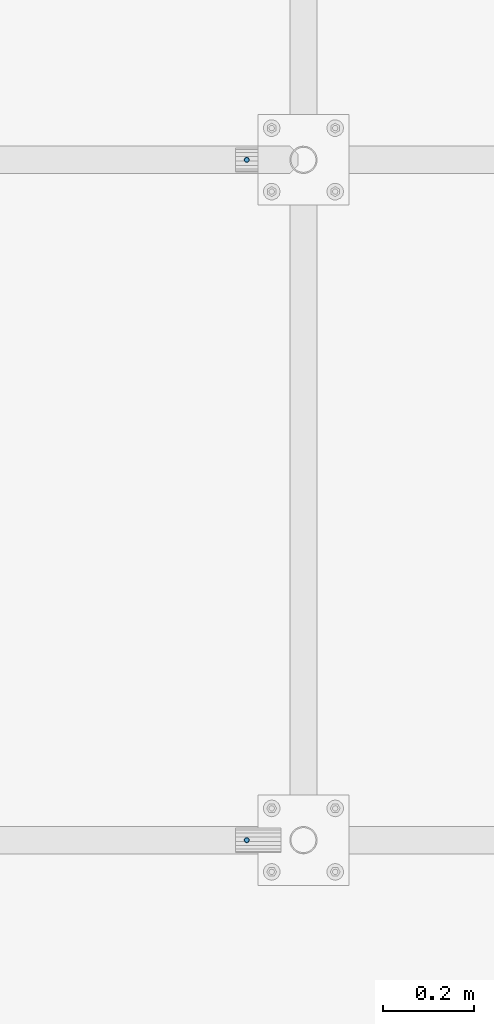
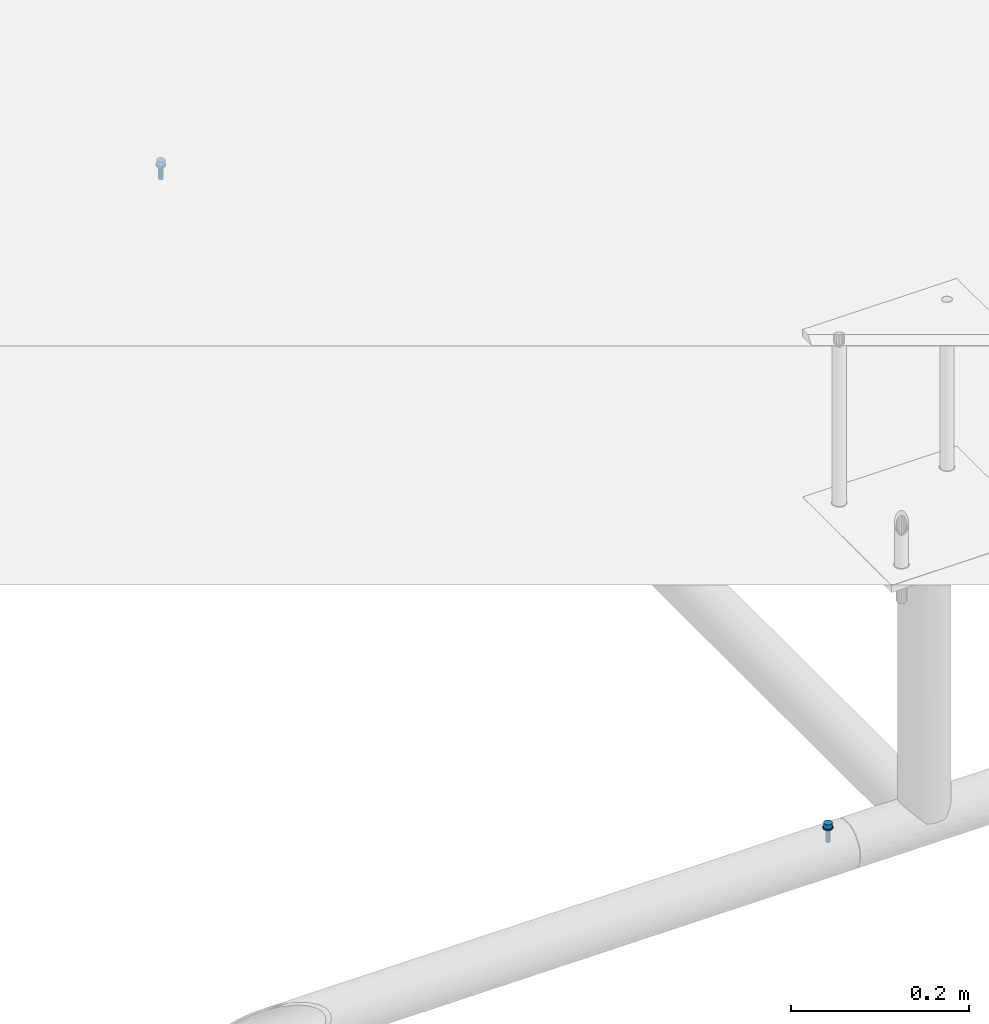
# One storey, part 8 of 30: 2 mechanical fasteners.
"""IFC2X3 building model written with IfcOpenShell, lengths in millimetres."""

from ifc_helpers import new_model, entity, si_unit, converted_unit, origin_with_axes, place, context, project, spatial, faceted_brep, element, save


model = new_model("IFC2X3")

# Units and contexts
model_context = context("Model", 3, precision=1e-09, world=origin_with_axes())
ifc_project = project(units=[si_unit("LENGTHUNIT", "METRE", prefix="MILLI"), si_unit("AREAUNIT", "SQUARE_METRE"), si_unit("VOLUMEUNIT", "CUBIC_METRE"), converted_unit("PLANEANGLEUNIT", "DEGREE", entity("IfcPlaneAngleMeasure", 0.01745329), si_unit("PLANEANGLEUNIT", "RADIAN"), dimensions=[0, 0, 0, 0, 0, 0, 0])], contexts=[model_context])

# Site, building, storey
site_placement = place(None, origin_with_axes())
site = spatial("IfcSite", under=ifc_project, at=site_placement, Name="M?nsinger Stra?e, 81477 M?nchen", CompositionType="ELEMENT")
building_placement = place(site_placement, origin_with_axes())
building = spatial("IfcBuilding", under=site, at=building_placement, Name="Struktur 1", CompositionType="ELEMENT")
storey_placement = place(building_placement, origin_with_axes())
storey = spatial("IfcBuildingStorey", under=building, at=storey_placement, Name="Default Storey", CompositionType="ELEMENT", Elevation=0.0)

# Mechanical fasteners
mechanical_fastener_1_placement = place(None, origin_with_axes())
element("IfcMechanicalFastener", 1, at=mechanical_fastener_1_placement, inside=storey, ObjectType="-", NominalDiameter=6.0, NominalLength=20.0, context=model_context, shape_type="Brep", body=[
    faceted_brep([(4287.315117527, 1491.2632594, 6140.15), (4287.315117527, 1491.2632594, 6141.75), (4287.19982921, 1490.092717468, 6141.75), (4287.19982921, 1490.092717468, 6140.15), (4286.858394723, 1488.967158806, 6141.75), (4286.858394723, 1488.967158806, 6140.15), (4286.303935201, 1487.929838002, 6141.75), (4286.303935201, 1487.929838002, 6140.15), (4285.557758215, 1487.020618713, 6141.75), (4285.557758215, 1487.020618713, 6140.15), (4284.648538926, 1486.274441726, 6141.75), (4284.648538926, 1486.274441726, 6140.15), (4283.611218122, 1485.719982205, 6141.75), (4283.611218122, 1485.719982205, 6140.15), (4282.48565946, 1485.378547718, 6141.75), (4282.48565946, 1485.378547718, 6140.15), (4281.315117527, 1485.2632594, 6141.75), (4281.315117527, 1485.2632594, 6140.15), (4280.144575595, 1485.378547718, 6141.75), (4280.144575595, 1485.378547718, 6140.15), (4279.019016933, 1485.719982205, 6141.75), (4279.019016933, 1485.719982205, 6140.15), (4277.981696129, 1486.274441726, 6141.75), (4277.981696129, 1486.274441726, 6140.15), (4277.07247684, 1487.020618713, 6141.75), (4277.07247684, 1487.020618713, 6140.15), (4276.326299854, 1487.929838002, 6141.75), (4276.326299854, 1487.929838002, 6140.15), (4275.771840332, 1488.967158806, 6141.75), (4275.771840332, 1488.967158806, 6140.15), (4275.430405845, 1490.092717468, 6141.75), (4275.430405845, 1490.092717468, 6140.15), (4275.315117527, 1491.2632594, 6141.75), (4275.315117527, 1491.2632594, 6140.15), (4275.430405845, 1492.433801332, 6141.75), (4275.430405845, 1492.433801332, 6140.15), (4275.771840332, 1493.559359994, 6141.75), (4275.771840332, 1493.559359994, 6140.15), (4276.326299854, 1494.596680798, 6141.75), (4276.326299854, 1494.596680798, 6140.15), (4277.07247684, 1495.505900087, 6141.75), (4277.07247684, 1495.505900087, 6140.15), (4277.981696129, 1496.252077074, 6141.75), (4277.981696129, 1496.252077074, 6140.15), (4279.019016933, 1496.806536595, 6141.75), (4279.019016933, 1496.806536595, 6140.15), (4280.144575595, 1497.147971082, 6141.75), (4280.144575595, 1497.147971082, 6140.15), (4281.315117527, 1497.2632594, 6141.75), (4281.315117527, 1497.2632594, 6140.15), (4282.48565946, 1497.147971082, 6141.75), (4282.48565946, 1497.147971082, 6140.15), (4283.611218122, 1496.806536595, 6141.75), (4283.611218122, 1496.806536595, 6140.15), (4284.648538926, 1496.252077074, 6141.75), (4284.648538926, 1496.252077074, 6140.15), (4285.557758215, 1495.505900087, 6141.75), (4285.557758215, 1495.505900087, 6140.15), (4286.303935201, 1494.596680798, 6141.75), (4286.303935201, 1494.596680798, 6140.15), (4286.858394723, 1493.559359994, 6141.75), (4286.858394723, 1493.559359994, 6140.15), (4287.19982921, 1492.433801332, 6141.75), (4287.19982921, 1492.433801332, 6140.15)], [[[0, 1, 2, 3]], [[3, 2, 4, 5]], [[5, 4, 6, 7]], [[7, 6, 8, 9]], [[9, 8, 10, 11]], [[11, 10, 12, 13]], [[13, 12, 14, 15]], [[15, 14, 16, 17]], [[17, 16, 18, 19]], [[19, 18, 20, 21]], [[21, 20, 22, 23]], [[23, 22, 24, 25]], [[25, 24, 26, 27]], [[27, 26, 28, 29]], [[29, 28, 30, 31]], [[31, 30, 32, 33]], [[33, 32, 34, 35]], [[35, 34, 36, 37]], [[37, 36, 38, 39]], [[39, 38, 40, 41]], [[41, 40, 42, 43]], [[43, 42, 44, 45]], [[45, 44, 46, 47]], [[47, 46, 48, 49]], [[49, 48, 50, 51]], [[51, 50, 52, 53]], [[53, 52, 54, 55]], [[55, 54, 56, 57]], [[57, 56, 58, 59]], [[59, 58, 60, 61]], [[61, 60, 62, 63]], [[63, 62, 1, 0]], [[2, 1, 62, 60, 58, 56, 54, 52, 50, 48, 46, 44, 42, 40, 38, 36, 34, 32, 30, 28, 26, 24, 22, 20, 18, 16, 14, 12, 10, 8, 6, 4]], [[63, 0, 3, 5, 7, 9, 11, 13, 15, 17, 19, 21, 23, 25, 27, 29, 31, 33, 35, 37, 39, 41, 43, 45, 47, 49, 51, 53, 55, 57, 59, 61]]]),
    faceted_brep([(4286.315117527, 1491.2632594, 6141.75), (4286.315117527, 1491.2632594, 6147.75), (4286.219043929, 1490.28780779, 6147.75), (4286.219043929, 1490.28780779, 6141.75), (4285.93451519, 1489.349842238, 6147.75), (4285.93451519, 1489.349842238, 6141.75), (4285.472465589, 1488.485408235, 6147.75), (4285.472465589, 1488.485408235, 6141.75), (4284.850651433, 1487.727725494, 6147.75), (4284.850651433, 1487.727725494, 6141.75), (4284.092968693, 1487.105911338, 6147.75), (4284.092968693, 1487.105911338, 6141.75), (4283.228534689, 1486.643861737, 6147.75), (4283.228534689, 1486.643861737, 6141.75), (4282.290569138, 1486.359332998, 6147.75), (4282.290569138, 1486.359332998, 6141.75), (4281.315117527, 1486.2632594, 6147.75), (4281.315117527, 1486.2632594, 6141.75), (4280.339665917, 1486.359332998, 6147.75), (4280.339665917, 1486.359332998, 6141.75), (4279.401700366, 1486.643861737, 6147.75), (4279.401700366, 1486.643861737, 6141.75), (4278.537266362, 1487.105911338, 6147.75), (4278.537266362, 1487.105911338, 6141.75), (4277.779583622, 1487.727725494, 6147.75), (4277.779583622, 1487.727725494, 6141.75), (4277.157769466, 1488.485408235, 6147.75), (4277.157769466, 1488.485408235, 6141.75), (4276.695719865, 1489.349842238, 6147.75), (4276.695719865, 1489.349842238, 6141.75), (4276.411191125, 1490.28780779, 6147.75), (4276.411191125, 1490.28780779, 6141.75), (4276.315117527, 1491.2632594, 6147.75), (4276.315117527, 1491.2632594, 6141.75), (4276.411191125, 1492.23871101, 6147.75), (4276.411191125, 1492.23871101, 6141.75), (4276.695719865, 1493.176676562, 6147.75), (4276.695719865, 1493.176676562, 6141.75), (4277.157769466, 1494.041110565, 6147.75), (4277.157769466, 1494.041110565, 6141.75), (4277.779583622, 1494.798793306, 6147.75), (4277.779583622, 1494.798793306, 6141.75), (4278.537266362, 1495.420607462, 6147.75), (4278.537266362, 1495.420607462, 6141.75), (4279.401700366, 1495.882657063, 6147.75), (4279.401700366, 1495.882657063, 6141.75), (4280.339665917, 1496.167185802, 6147.75), (4280.339665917, 1496.167185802, 6141.75), (4281.315117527, 1496.2632594, 6147.75), (4281.315117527, 1496.2632594, 6141.75), (4282.290569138, 1496.167185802, 6147.75), (4282.290569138, 1496.167185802, 6141.75), (4283.228534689, 1495.882657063, 6147.75), (4283.228534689, 1495.882657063, 6141.75), (4284.092968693, 1495.420607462, 6147.75), (4284.092968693, 1495.420607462, 6141.75), (4284.850651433, 1494.798793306, 6147.75), (4284.850651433, 1494.798793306, 6141.75), (4285.472465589, 1494.041110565, 6147.75), (4285.472465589, 1494.041110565, 6141.75), (4285.93451519, 1493.176676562, 6147.75), (4285.93451519, 1493.176676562, 6141.75), (4286.219043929, 1492.23871101, 6147.75), (4286.219043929, 1492.23871101, 6141.75)], [[[0, 1, 2, 3]], [[3, 2, 4, 5]], [[5, 4, 6, 7]], [[7, 6, 8, 9]], [[9, 8, 10, 11]], [[11, 10, 12, 13]], [[13, 12, 14, 15]], [[15, 14, 16, 17]], [[17, 16, 18, 19]], [[19, 18, 20, 21]], [[21, 20, 22, 23]], [[23, 22, 24, 25]], [[25, 24, 26, 27]], [[27, 26, 28, 29]], [[29, 28, 30, 31]], [[31, 30, 32, 33]], [[33, 32, 34, 35]], [[35, 34, 36, 37]], [[37, 36, 38, 39]], [[39, 38, 40, 41]], [[41, 40, 42, 43]], [[43, 42, 44, 45]], [[45, 44, 46, 47]], [[47, 46, 48, 49]], [[49, 48, 50, 51]], [[51, 50, 52, 53]], [[53, 52, 54, 55]], [[55, 54, 56, 57]], [[57, 56, 58, 59]], [[59, 58, 60, 61]], [[61, 60, 62, 63]], [[63, 62, 1, 0]], [[2, 1, 62, 60, 58, 56, 54, 52, 50, 48, 46, 44, 42, 40, 38, 36, 34, 32, 30, 28, 26, 24, 22, 20, 18, 16, 14, 12, 10, 8, 6, 4]], [[63, 0, 3, 5, 7, 9, 11, 13, 15, 17, 19, 21, 23, 25, 27, 29, 31, 33, 35, 37, 39, 41, 43, 45, 47, 49, 51, 53, 55, 57, 59, 61]]]),
    faceted_brep([(4284.315117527, 1491.2632594, 6130.585197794), (4284.315117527, 1491.2632594, 6140.15), (4284.086756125, 1490.115209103, 6140.15), (4284.086756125, 1490.115209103, 6130.585197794), (4283.436437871, 1489.141939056, 6140.15), (4283.436437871, 1489.141939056, 6130.585197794), (4282.463167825, 1488.491620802, 6140.15), (4282.463167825, 1488.491620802, 6130.585197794), (4281.315117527, 1488.2632594, 6140.15), (4281.315117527, 1488.2632594, 6130.585197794), (4280.16706723, 1488.491620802, 6140.15), (4280.16706723, 1488.491620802, 6130.585197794), (4279.193797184, 1489.141939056, 6140.15), (4279.193797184, 1489.141939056, 6130.585197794), (4278.54347893, 1490.115209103, 6140.15), (4278.54347893, 1490.115209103, 6130.585197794), (4278.315117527, 1491.2632594, 6140.15), (4278.315117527, 1491.2632594, 6130.585197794), (4278.54347893, 1492.411309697, 6140.15), (4278.54347893, 1492.411309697, 6130.585197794), (4279.193797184, 1493.384579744, 6140.15), (4279.193797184, 1493.384579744, 6130.585197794), (4280.16706723, 1494.034897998, 6140.15), (4280.16706723, 1494.034897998, 6130.585197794), (4281.315117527, 1494.2632594, 6140.15), (4281.315117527, 1494.2632594, 6130.585197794), (4282.463167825, 1494.034897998, 6140.15), (4282.463167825, 1494.034897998, 6130.585197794), (4283.436437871, 1493.384579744, 6140.15), (4283.436437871, 1493.384579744, 6130.585197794), (4284.086756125, 1492.411309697, 6140.15), (4284.086756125, 1492.411309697, 6130.585197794)], [[[0, 1, 2, 3]], [[3, 2, 4, 5]], [[5, 4, 6, 7]], [[7, 6, 8, 9]], [[9, 8, 10, 11]], [[11, 10, 12, 13]], [[13, 12, 14, 15]], [[15, 14, 16, 17]], [[17, 16, 18, 19]], [[19, 18, 20, 21]], [[21, 20, 22, 23]], [[23, 22, 24, 25]], [[25, 24, 26, 27]], [[27, 26, 28, 29]], [[29, 28, 30, 31]], [[31, 30, 1, 0]], [[2, 1, 30, 28, 26, 24, 22, 20, 18, 16, 14, 12, 10, 8, 6, 4]], [[31, 0, 3, 5, 7, 9, 11, 13, 15, 17, 19, 21, 23, 25, 27, 29]]]),
    faceted_brep([(4284.315117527, 1491.2632594, 6121.75), (4284.315117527, 1491.2632594, 6130.585197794), (4284.086756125, 1490.115209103, 6130.585197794), (4284.086756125, 1490.115209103, 6121.75), (4283.436437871, 1489.141939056, 6130.585197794), (4283.436437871, 1489.141939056, 6121.75), (4282.463167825, 1488.491620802, 6130.585197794), (4282.463167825, 1488.491620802, 6121.75), (4281.315117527, 1488.2632594, 6130.585197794), (4281.315117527, 1488.2632594, 6121.75), (4280.16706723, 1488.491620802, 6130.585197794), (4280.16706723, 1488.491620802, 6121.75), (4279.193797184, 1489.141939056, 6130.585197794), (4279.193797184, 1489.141939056, 6121.75), (4278.54347893, 1490.115209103, 6130.585197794), (4278.54347893, 1490.115209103, 6121.75), (4278.315117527, 1491.2632594, 6130.585197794), (4278.315117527, 1491.2632594, 6121.75), (4278.54347893, 1492.411309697, 6130.585197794), (4278.54347893, 1492.411309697, 6121.75), (4279.193797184, 1493.384579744, 6130.585197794), (4279.193797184, 1493.384579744, 6121.75), (4280.16706723, 1494.034897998, 6130.585197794), (4280.16706723, 1494.034897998, 6121.75), (4281.315117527, 1494.2632594, 6130.585197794), (4281.315117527, 1494.2632594, 6121.75), (4282.463167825, 1494.034897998, 6130.585197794), (4282.463167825, 1494.034897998, 6121.75), (4283.436437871, 1493.384579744, 6130.585197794), (4283.436437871, 1493.384579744, 6121.75), (4284.086756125, 1492.411309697, 6130.585197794), (4284.086756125, 1492.411309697, 6121.75)], [[[0, 1, 2, 3]], [[3, 2, 4, 5]], [[5, 4, 6, 7]], [[7, 6, 8, 9]], [[9, 8, 10, 11]], [[11, 10, 12, 13]], [[13, 12, 14, 15]], [[15, 14, 16, 17]], [[17, 16, 18, 19]], [[19, 18, 20, 21]], [[21, 20, 22, 23]], [[23, 22, 24, 25]], [[25, 24, 26, 27]], [[27, 26, 28, 29]], [[29, 28, 30, 31]], [[31, 30, 1, 0]], [[2, 1, 30, 28, 26, 24, 22, 20, 18, 16, 14, 12, 10, 8, 6, 4]], [[31, 0, 3, 5, 7, 9, 11, 13, 15, 17, 19, 21, 23, 25, 27, 29]]]),
])
mechanical_fastener_2_placement = place(None, origin_with_axes())
element("IfcMechanicalFastener", 2, at=mechanical_fastener_2_placement, inside=storey, ObjectType="-", NominalDiameter=6.0, NominalLength=20.0, context=model_context, shape_type="Brep", body=[
    faceted_brep([(4287.315117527, 2991.2632594, 6140.15), (4287.315117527, 2991.2632594, 6141.75), (4287.19982921, 2990.092717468, 6141.75), (4287.19982921, 2990.092717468, 6140.15), (4286.858394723, 2988.967158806, 6141.75), (4286.858394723, 2988.967158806, 6140.15), (4286.303935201, 2987.929838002, 6141.75), (4286.303935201, 2987.929838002, 6140.15), (4285.557758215, 2987.020618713, 6141.75), (4285.557758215, 2987.020618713, 6140.15), (4284.648538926, 2986.274441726, 6141.75), (4284.648538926, 2986.274441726, 6140.15), (4283.611218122, 2985.719982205, 6141.75), (4283.611218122, 2985.719982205, 6140.15), (4282.48565946, 2985.378547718, 6141.75), (4282.48565946, 2985.378547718, 6140.15), (4281.315117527, 2985.2632594, 6141.75), (4281.315117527, 2985.2632594, 6140.15), (4280.144575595, 2985.378547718, 6141.75), (4280.144575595, 2985.378547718, 6140.15), (4279.019016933, 2985.719982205, 6141.75), (4279.019016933, 2985.719982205, 6140.15), (4277.981696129, 2986.274441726, 6141.75), (4277.981696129, 2986.274441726, 6140.15), (4277.07247684, 2987.020618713, 6141.75), (4277.07247684, 2987.020618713, 6140.15), (4276.326299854, 2987.929838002, 6141.75), (4276.326299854, 2987.929838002, 6140.15), (4275.771840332, 2988.967158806, 6141.75), (4275.771840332, 2988.967158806, 6140.15), (4275.430405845, 2990.092717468, 6141.75), (4275.430405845, 2990.092717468, 6140.15), (4275.315117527, 2991.2632594, 6141.75), (4275.315117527, 2991.2632594, 6140.15), (4275.430405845, 2992.433801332, 6141.75), (4275.430405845, 2992.433801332, 6140.15), (4275.771840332, 2993.559359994, 6141.75), (4275.771840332, 2993.559359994, 6140.15), (4276.326299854, 2994.596680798, 6141.75), (4276.326299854, 2994.596680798, 6140.15), (4277.07247684, 2995.505900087, 6141.75), (4277.07247684, 2995.505900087, 6140.15), (4277.981696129, 2996.252077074, 6141.75), (4277.981696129, 2996.252077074, 6140.15), (4279.019016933, 2996.806536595, 6141.75), (4279.019016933, 2996.806536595, 6140.15), (4280.144575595, 2997.147971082, 6141.75), (4280.144575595, 2997.147971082, 6140.15), (4281.315117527, 2997.2632594, 6141.75), (4281.315117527, 2997.2632594, 6140.15), (4282.48565946, 2997.147971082, 6141.75), (4282.48565946, 2997.147971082, 6140.15), (4283.611218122, 2996.806536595, 6141.75), (4283.611218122, 2996.806536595, 6140.15), (4284.648538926, 2996.252077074, 6141.75), (4284.648538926, 2996.252077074, 6140.15), (4285.557758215, 2995.505900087, 6141.75), (4285.557758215, 2995.505900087, 6140.15), (4286.303935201, 2994.596680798, 6141.75), (4286.303935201, 2994.596680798, 6140.15), (4286.858394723, 2993.559359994, 6141.75), (4286.858394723, 2993.559359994, 6140.15), (4287.19982921, 2992.433801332, 6141.75), (4287.19982921, 2992.433801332, 6140.15)], [[[0, 1, 2, 3]], [[3, 2, 4, 5]], [[5, 4, 6, 7]], [[7, 6, 8, 9]], [[9, 8, 10, 11]], [[11, 10, 12, 13]], [[13, 12, 14, 15]], [[15, 14, 16, 17]], [[17, 16, 18, 19]], [[19, 18, 20, 21]], [[21, 20, 22, 23]], [[23, 22, 24, 25]], [[25, 24, 26, 27]], [[27, 26, 28, 29]], [[29, 28, 30, 31]], [[31, 30, 32, 33]], [[33, 32, 34, 35]], [[35, 34, 36, 37]], [[37, 36, 38, 39]], [[39, 38, 40, 41]], [[41, 40, 42, 43]], [[43, 42, 44, 45]], [[45, 44, 46, 47]], [[47, 46, 48, 49]], [[49, 48, 50, 51]], [[51, 50, 52, 53]], [[53, 52, 54, 55]], [[55, 54, 56, 57]], [[57, 56, 58, 59]], [[59, 58, 60, 61]], [[61, 60, 62, 63]], [[63, 62, 1, 0]], [[2, 1, 62, 60, 58, 56, 54, 52, 50, 48, 46, 44, 42, 40, 38, 36, 34, 32, 30, 28, 26, 24, 22, 20, 18, 16, 14, 12, 10, 8, 6, 4]], [[63, 0, 3, 5, 7, 9, 11, 13, 15, 17, 19, 21, 23, 25, 27, 29, 31, 33, 35, 37, 39, 41, 43, 45, 47, 49, 51, 53, 55, 57, 59, 61]]]),
    faceted_brep([(4286.315117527, 2991.2632594, 6141.75), (4286.315117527, 2991.2632594, 6147.75), (4286.219043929, 2990.28780779, 6147.75), (4286.219043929, 2990.28780779, 6141.75), (4285.93451519, 2989.349842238, 6147.75), (4285.93451519, 2989.349842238, 6141.75), (4285.472465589, 2988.485408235, 6147.75), (4285.472465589, 2988.485408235, 6141.75), (4284.850651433, 2987.727725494, 6147.75), (4284.850651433, 2987.727725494, 6141.75), (4284.092968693, 2987.105911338, 6147.75), (4284.092968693, 2987.105911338, 6141.75), (4283.228534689, 2986.643861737, 6147.75), (4283.228534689, 2986.643861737, 6141.75), (4282.290569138, 2986.359332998, 6147.75), (4282.290569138, 2986.359332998, 6141.75), (4281.315117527, 2986.2632594, 6147.75), (4281.315117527, 2986.2632594, 6141.75), (4280.339665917, 2986.359332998, 6147.75), (4280.339665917, 2986.359332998, 6141.75), (4279.401700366, 2986.643861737, 6147.75), (4279.401700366, 2986.643861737, 6141.75), (4278.537266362, 2987.105911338, 6147.75), (4278.537266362, 2987.105911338, 6141.75), (4277.779583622, 2987.727725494, 6147.75), (4277.779583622, 2987.727725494, 6141.75), (4277.157769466, 2988.485408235, 6147.75), (4277.157769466, 2988.485408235, 6141.75), (4276.695719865, 2989.349842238, 6147.75), (4276.695719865, 2989.349842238, 6141.75), (4276.411191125, 2990.28780779, 6147.75), (4276.411191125, 2990.28780779, 6141.75), (4276.315117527, 2991.2632594, 6147.75), (4276.315117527, 2991.2632594, 6141.75), (4276.411191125, 2992.23871101, 6147.75), (4276.411191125, 2992.23871101, 6141.75), (4276.695719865, 2993.176676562, 6147.75), (4276.695719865, 2993.176676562, 6141.75), (4277.157769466, 2994.041110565, 6147.75), (4277.157769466, 2994.041110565, 6141.75), (4277.779583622, 2994.798793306, 6147.75), (4277.779583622, 2994.798793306, 6141.75), (4278.537266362, 2995.420607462, 6147.75), (4278.537266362, 2995.420607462, 6141.75), (4279.401700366, 2995.882657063, 6147.75), (4279.401700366, 2995.882657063, 6141.75), (4280.339665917, 2996.167185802, 6147.75), (4280.339665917, 2996.167185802, 6141.75), (4281.315117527, 2996.2632594, 6147.75), (4281.315117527, 2996.2632594, 6141.75), (4282.290569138, 2996.167185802, 6147.75), (4282.290569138, 2996.167185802, 6141.75), (4283.228534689, 2995.882657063, 6147.75), (4283.228534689, 2995.882657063, 6141.75), (4284.092968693, 2995.420607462, 6147.75), (4284.092968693, 2995.420607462, 6141.75), (4284.850651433, 2994.798793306, 6147.75), (4284.850651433, 2994.798793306, 6141.75), (4285.472465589, 2994.041110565, 6147.75), (4285.472465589, 2994.041110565, 6141.75), (4285.93451519, 2993.176676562, 6147.75), (4285.93451519, 2993.176676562, 6141.75), (4286.219043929, 2992.23871101, 6147.75), (4286.219043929, 2992.23871101, 6141.75)], [[[0, 1, 2, 3]], [[3, 2, 4, 5]], [[5, 4, 6, 7]], [[7, 6, 8, 9]], [[9, 8, 10, 11]], [[11, 10, 12, 13]], [[13, 12, 14, 15]], [[15, 14, 16, 17]], [[17, 16, 18, 19]], [[19, 18, 20, 21]], [[21, 20, 22, 23]], [[23, 22, 24, 25]], [[25, 24, 26, 27]], [[27, 26, 28, 29]], [[29, 28, 30, 31]], [[31, 30, 32, 33]], [[33, 32, 34, 35]], [[35, 34, 36, 37]], [[37, 36, 38, 39]], [[39, 38, 40, 41]], [[41, 40, 42, 43]], [[43, 42, 44, 45]], [[45, 44, 46, 47]], [[47, 46, 48, 49]], [[49, 48, 50, 51]], [[51, 50, 52, 53]], [[53, 52, 54, 55]], [[55, 54, 56, 57]], [[57, 56, 58, 59]], [[59, 58, 60, 61]], [[61, 60, 62, 63]], [[63, 62, 1, 0]], [[2, 1, 62, 60, 58, 56, 54, 52, 50, 48, 46, 44, 42, 40, 38, 36, 34, 32, 30, 28, 26, 24, 22, 20, 18, 16, 14, 12, 10, 8, 6, 4]], [[63, 0, 3, 5, 7, 9, 11, 13, 15, 17, 19, 21, 23, 25, 27, 29, 31, 33, 35, 37, 39, 41, 43, 45, 47, 49, 51, 53, 55, 57, 59, 61]]]),
    faceted_brep([(4284.315117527, 2991.2632594, 6130.585197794), (4284.315117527, 2991.2632594, 6140.15), (4284.086756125, 2990.115209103, 6140.15), (4284.086756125, 2990.115209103, 6130.585197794), (4283.436437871, 2989.141939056, 6140.15), (4283.436437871, 2989.141939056, 6130.585197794), (4282.463167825, 2988.491620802, 6140.15), (4282.463167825, 2988.491620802, 6130.585197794), (4281.315117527, 2988.2632594, 6140.15), (4281.315117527, 2988.2632594, 6130.585197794), (4280.16706723, 2988.491620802, 6140.15), (4280.16706723, 2988.491620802, 6130.585197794), (4279.193797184, 2989.141939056, 6140.15), (4279.193797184, 2989.141939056, 6130.585197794), (4278.54347893, 2990.115209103, 6140.15), (4278.54347893, 2990.115209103, 6130.585197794), (4278.315117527, 2991.2632594, 6140.15), (4278.315117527, 2991.2632594, 6130.585197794), (4278.54347893, 2992.411309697, 6140.15), (4278.54347893, 2992.411309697, 6130.585197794), (4279.193797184, 2993.384579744, 6140.15), (4279.193797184, 2993.384579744, 6130.585197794), (4280.16706723, 2994.034897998, 6140.15), (4280.16706723, 2994.034897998, 6130.585197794), (4281.315117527, 2994.2632594, 6140.15), (4281.315117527, 2994.2632594, 6130.585197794), (4282.463167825, 2994.034897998, 6140.15), (4282.463167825, 2994.034897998, 6130.585197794), (4283.436437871, 2993.384579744, 6140.15), (4283.436437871, 2993.384579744, 6130.585197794), (4284.086756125, 2992.411309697, 6140.15), (4284.086756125, 2992.411309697, 6130.585197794)], [[[0, 1, 2, 3]], [[3, 2, 4, 5]], [[5, 4, 6, 7]], [[7, 6, 8, 9]], [[9, 8, 10, 11]], [[11, 10, 12, 13]], [[13, 12, 14, 15]], [[15, 14, 16, 17]], [[17, 16, 18, 19]], [[19, 18, 20, 21]], [[21, 20, 22, 23]], [[23, 22, 24, 25]], [[25, 24, 26, 27]], [[27, 26, 28, 29]], [[29, 28, 30, 31]], [[31, 30, 1, 0]], [[2, 1, 30, 28, 26, 24, 22, 20, 18, 16, 14, 12, 10, 8, 6, 4]], [[31, 0, 3, 5, 7, 9, 11, 13, 15, 17, 19, 21, 23, 25, 27, 29]]]),
    faceted_brep([(4284.315117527, 2991.2632594, 6121.75), (4284.315117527, 2991.2632594, 6130.585197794), (4284.086756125, 2990.115209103, 6130.585197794), (4284.086756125, 2990.115209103, 6121.75), (4283.436437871, 2989.141939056, 6130.585197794), (4283.436437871, 2989.141939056, 6121.75), (4282.463167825, 2988.491620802, 6130.585197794), (4282.463167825, 2988.491620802, 6121.75), (4281.315117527, 2988.2632594, 6130.585197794), (4281.315117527, 2988.2632594, 6121.75), (4280.16706723, 2988.491620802, 6130.585197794), (4280.16706723, 2988.491620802, 6121.75), (4279.193797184, 2989.141939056, 6130.585197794), (4279.193797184, 2989.141939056, 6121.75), (4278.54347893, 2990.115209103, 6130.585197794), (4278.54347893, 2990.115209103, 6121.75), (4278.315117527, 2991.2632594, 6130.585197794), (4278.315117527, 2991.2632594, 6121.75), (4278.54347893, 2992.411309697, 6130.585197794), (4278.54347893, 2992.411309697, 6121.75), (4279.193797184, 2993.384579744, 6130.585197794), (4279.193797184, 2993.384579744, 6121.75), (4280.16706723, 2994.034897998, 6130.585197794), (4280.16706723, 2994.034897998, 6121.75), (4281.315117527, 2994.2632594, 6130.585197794), (4281.315117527, 2994.2632594, 6121.75), (4282.463167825, 2994.034897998, 6130.585197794), (4282.463167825, 2994.034897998, 6121.75), (4283.436437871, 2993.384579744, 6130.585197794), (4283.436437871, 2993.384579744, 6121.75), (4284.086756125, 2992.411309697, 6130.585197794), (4284.086756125, 2992.411309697, 6121.75)], [[[0, 1, 2, 3]], [[3, 2, 4, 5]], [[5, 4, 6, 7]], [[7, 6, 8, 9]], [[9, 8, 10, 11]], [[11, 10, 12, 13]], [[13, 12, 14, 15]], [[15, 14, 16, 17]], [[17, 16, 18, 19]], [[19, 18, 20, 21]], [[21, 20, 22, 23]], [[23, 22, 24, 25]], [[25, 24, 26, 27]], [[27, 26, 28, 29]], [[29, 28, 30, 31]], [[31, 30, 1, 0]], [[2, 1, 30, 28, 26, 24, 22, 20, 18, 16, 14, 12, 10, 8, 6, 4]], [[31, 0, 3, 5, 7, 9, 11, 13, 15, 17, 19, 21, 23, 25, 27, 29]]]),
])

save(model, "model.ifc")
